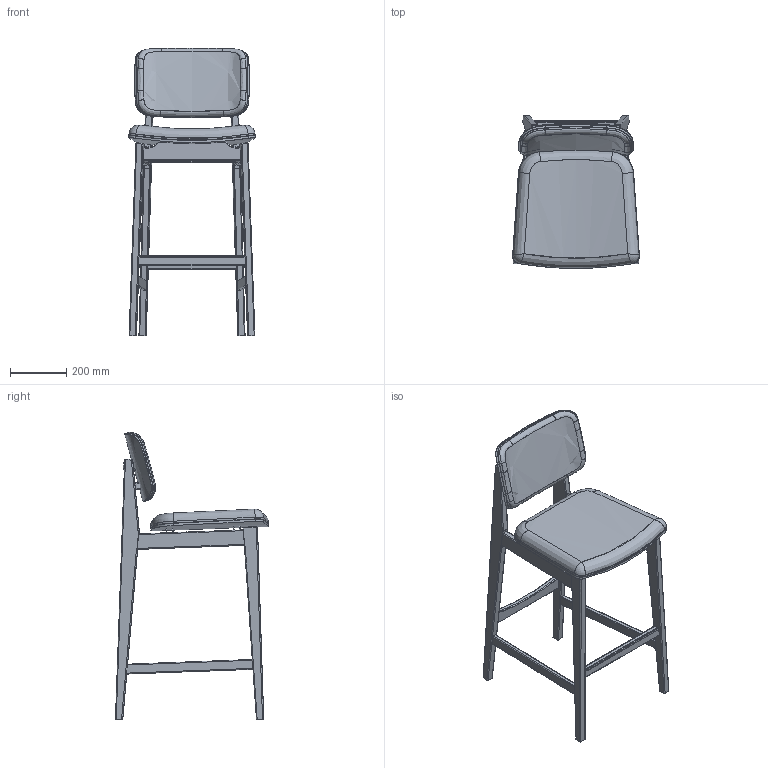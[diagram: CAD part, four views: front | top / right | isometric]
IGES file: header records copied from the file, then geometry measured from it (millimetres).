
Start section: SolidWorks IGES file using analytic representation for surfaces
Global section: file name: C:\Users\Adao.JMS\Documents\Trab Adao\Desenho técnico PRODUÇÃO\J M S\Catalogo MORE 2018\SHANNA\Banco\3D BANCO SHANNA M1060 UU.IGS; native system: SolidWorks 2019; preprocessor: SolidWorks 2019; author: Adao; date: 200305.185438; units: millimetre
Bounding box: 452.91 x 546.81 x 1025.15 mm (x, y, z)
Surface area: 1750660.5 mm2 (no closed solid volume)
Topology: 0 solids, 0 shells, 302 faces, 3405 edges, 3399 vertices
Faces by surface type: bspline 224, revolution 78
